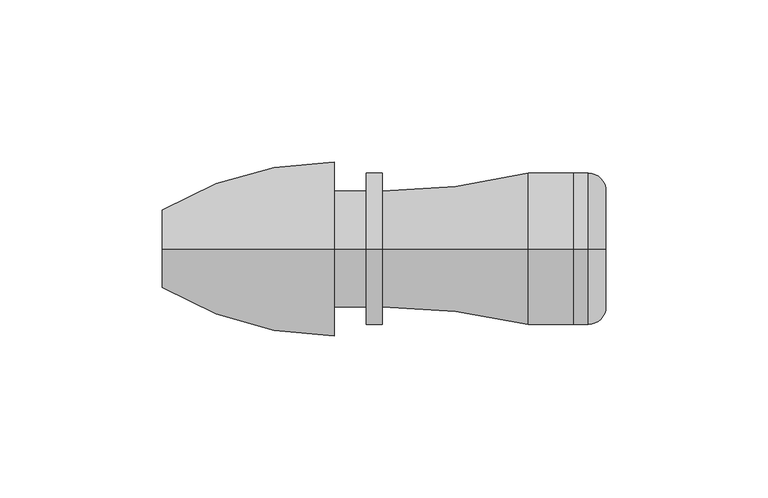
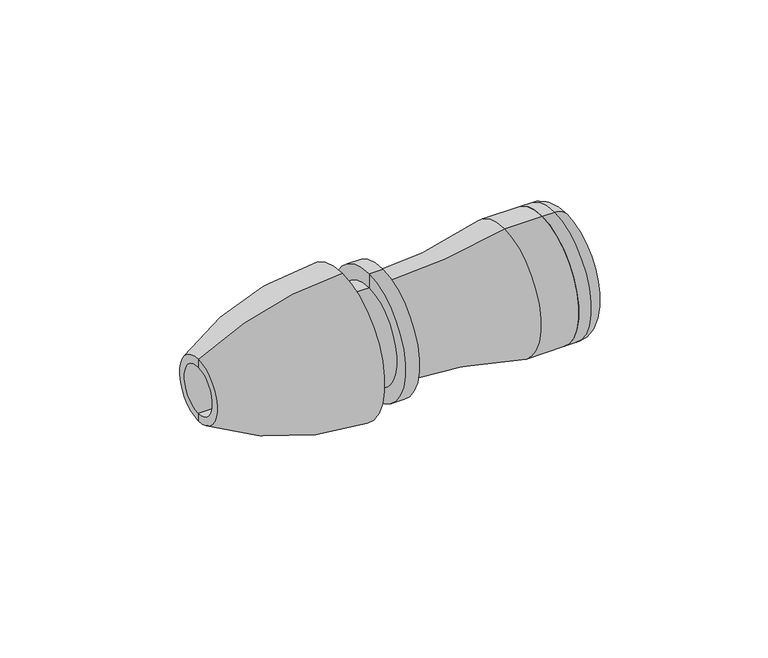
"""IFC4 building model written with IfcOpenShell, lengths in millimetres: pipe fitting geometry, Plumbing_Pipe-Fittings_Plasson_Universal-Adaptor_10017 : Plumbing_Pipe-Fittings_Plasson_Universal-Adaptor_10017."""

from ifc_helpers import new_model, si_unit, point, frame, origin, place, context, project, spatial, polyline, circle_curve, ellipse_curve, trimmed, source, transform, mapped, element, save
from ifc_brep_helpers import plane_surface, cylinder_surface, revolved_surface, advanced_brep


def pipe_fitting_002d9347(model_context):
    return source(origin(), model_context, "Body", "AdvancedBrep", [
        advanced_brep(
        [(0.8817136, 0.0, -9.0), (0.8817136, 0.0, 9.0), (-67.1182864, 0.0, 9.0), (-67.1182864, 0.0, -9.0), (0.8817136, 0.0, -23.5), (0.8817136, 0.0, 23.5), (-4.1182864, 0.0, -23.5), (-4.1182864, 0.0, 23.5), (-4.1182864, 0.0, -18.0), (-4.1182864, 0.0, 18.0), (-13.9516197, 0.0, -18.0), (-13.9516197, 0.0, 18.0), (-13.9516197, 0.0, -27.0), (-13.9516197, 0.0, 27.0), (-67.1182864, 0.0, 12.0), (-67.1182864, 0.0, -12.0)],
        [
            (0, 1, circle_curve(frame((0.8817136, 0.0, 0.0), z_axis=(1.0, 0.0, 0.0), x_axis=(0.0, 0.0, 1.0)), 9.0)),
            (1, 2),
            (2, 3, circle_curve(frame((-67.1182864, 0.0, 0.0), z_axis=(-1.0, 0.0, 0.0), x_axis=(0.0, 0.0, 1.0)), 9.0)),
            (3, 0),
            (1, 0, circle_curve(frame((0.8817136, 0.0, 0.0), z_axis=(1.0, 0.0, 0.0), x_axis=(0.0, 0.0, 1.0)), 9.0)),
            (3, 2, circle_curve(frame((-67.1182864, 0.0, 0.0), z_axis=(-1.0, 0.0, 0.0), x_axis=(0.0, 0.0, 1.0)), 9.0)),
            (4, 5, circle_curve(frame((0.8817136, 0.0, 0.0), z_axis=(1.0, 0.0, 0.0), x_axis=(0.0, 0.0, 1.0)), 23.5)),
            (5, 1),
            (0, 4),
            (5, 4, circle_curve(frame((0.8817136, 0.0, 0.0), z_axis=(1.0, 0.0, 0.0), x_axis=(0.0, 0.0, 1.0)), 23.5)),
            (6, 7, circle_curve(frame((-4.1182864, 0.0, 0.0), z_axis=(1.0, 0.0, 0.0), x_axis=(0.0, 0.0, 1.0)), 23.5)),
            (7, 5),
            (4, 6),
            (7, 6, circle_curve(frame((-4.1182864, 0.0, 0.0), z_axis=(1.0, 0.0, 0.0), x_axis=(0.0, 0.0, 1.0)), 23.5)),
            (8, 9, circle_curve(frame((-4.1182864, 0.0, 0.0), z_axis=(1.0, 0.0, 0.0), x_axis=(0.0, 0.0, 1.0)), 18.0)),
            (9, 7),
            (6, 8),
            (9, 8, circle_curve(frame((-4.1182864, 0.0, 0.0), z_axis=(1.0, 0.0, 0.0), x_axis=(0.0, 0.0, 1.0)), 18.0)),
            (10, 11, circle_curve(frame((-13.9516197, 0.0, 0.0), z_axis=(1.0, 0.0, 0.0), x_axis=(0.0, 0.0, 1.0)), 18.0)),
            (11, 9),
            (8, 10),
            (11, 10, circle_curve(frame((-13.9516197, 0.0, 0.0), z_axis=(1.0, 0.0, 0.0), x_axis=(0.0, 0.0, 1.0)), 18.0)),
            (12, 13, circle_curve(frame((-13.9516197, 0.0, 0.0), z_axis=(1.0, 0.0, 0.0), x_axis=(0.0, 0.0, 1.0)), 27.0)),
            (13, 11),
            (10, 12),
            (13, 12, circle_curve(frame((-13.9516197, 0.0, 0.0), z_axis=(1.0, 0.0, 0.0), x_axis=(0.0, 0.0, 1.0)), 27.0)),
            (2, 14),
            (14, 15, circle_curve(frame((-67.1182864, 0.0, 0.0), z_axis=(-1.0, 0.0, 0.0), x_axis=(0.0, 0.0, 1.0)), 12.0)),
            (15, 3),
            (15, 14, circle_curve(frame((-67.1182864, 0.0, 0.0), z_axis=(-1.0, 0.0, 0.0), x_axis=(0.0, 0.0, 1.0)), 12.0)),
            (14, 13, circle_curve(frame((-13.9516197, 0.0, -74.7231481), z_axis=(0.0, 1.0, 0.0), x_axis=(1.0, 0.0, 0.0)), 101.7231481)),
            (12, 15, circle_curve(frame((-13.9516197, 0.0, 74.7231481), z_axis=(0.0, 1.0, 0.0), x_axis=(1.0, 0.0, 0.0)), 101.7231481)),
        ],
        [
            revolved_surface(polyline([(-67.1182864, 0.0, 9.0), (0.8817136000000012, 0.0, 9.0)]), (-29.1182864, 0.0, 0.0), (-1.0, 0.0, 0.0)),
            plane_surface(frame((0.8817136, 0.0, 0.0), z_axis=(1.0, 0.0, 0.0), x_axis=(0.0, 0.0, 1.0))),
            cylinder_surface(frame((-29.1182864, 0.0, 0.0), z_axis=(-1.0, 0.0, 0.0), x_axis=(0.0, 0.0, 1.0)), 23.5),
            plane_surface(frame((-4.1182864, 0.0, 0.0), z_axis=(-1.0, 0.0, 0.0), x_axis=(0.0, 0.0, 1.0))),
            cylinder_surface(frame((-29.1182864, 0.0, 0.0), z_axis=(-1.0, 0.0, 0.0), x_axis=(0.0, 0.0, 1.0)), 18.0),
            plane_surface(frame((-13.9516197, 0.0, 0.0), z_axis=(1.0, 0.0, 0.0), x_axis=(0.0, 0.0, 1.0))),
            plane_surface(frame((-67.1182864, 0.0, 0.0), z_axis=(-1.0, 0.0, 0.0), x_axis=(0.0, 0.0, 1.0))),
            revolved_surface(trimmed(ellipse_curve(frame((-13.9516197, 0.0, -74.7231481), z_axis=(0.0, -1.0, 0.0), x_axis=(1.0, 0.0, 0.0)), 101.7231481, 101.7231481), [point((-13.9516197, 0.0, 27.0))], [point((-67.1182864, 0.0, 12.0))], True, "CARTESIAN"), (-29.1182864, 0.0, 0.0), (-1.0, 0.0, 0.0)),
        ],
        [
            (0, [[1, 2, 3, 4]]),
            (0, [[5, -4, 6, -2]]),
            (1, [[7, 8, -1, 9]]),
            (1, [[10, -9, -5, -8]]),
            (2, [[11, 12, -7, 13]]),
            (2, [[14, -13, -10, -12]]),
            (3, [[15, 16, -11, 17]]),
            (3, [[18, -17, -14, -16]]),
            (4, [[19, 20, -15, 21]]),
            (4, [[22, -21, -18, -20]]),
            (5, [[23, 24, -19, 25]]),
            (5, [[26, -25, -22, -24]]),
            (6, [[-3, 27, 28, 29]]),
            (6, [[-6, -29, 30, -27]]),
            (7, [[-28, 31, -23, 32]]),
            (7, [[-30, -32, -26, -31]]),
        ],
    ),
        advanced_brep(
        [(69.8817136, 0.0, -12.5), (69.8817136, 0.0, 12.5), (59.8817136, 0.0, 12.5), (59.8817136, 0.0, -12.5), (69.8817136, 0.0, -18.0), (69.8817136, 0.0, 18.0), (64.3817136, 0.0, -23.5), (64.3817136, 0.0, 23.5), (59.8817136, 0.0, -23.5), (59.8817136, 0.0, 23.5)],
        [
            (0, 1, circle_curve(frame((69.8817136, 0.0, 0.0), z_axis=(1.0, 0.0, 0.0), x_axis=(0.0, 0.0, 1.0)), 12.5)),
            (1, 2),
            (2, 3, circle_curve(frame((59.8817136, 0.0, 0.0), z_axis=(-1.0, 0.0, 0.0), x_axis=(0.0, 0.0, 1.0)), 12.5)),
            (3, 0),
            (1, 0, circle_curve(frame((69.8817136, 0.0, 0.0), z_axis=(1.0, 0.0, 0.0), x_axis=(0.0, 0.0, 1.0)), 12.5)),
            (3, 2, circle_curve(frame((59.8817136, 0.0, 0.0), z_axis=(-1.0, 0.0, 0.0), x_axis=(0.0, 0.0, 1.0)), 12.5)),
            (4, 5, circle_curve(frame((69.8817136, 0.0, 0.0), z_axis=(1.0, 0.0, 0.0), x_axis=(0.0, 0.0, 1.0)), 18.0)),
            (5, 1),
            (0, 4),
            (5, 4, circle_curve(frame((69.8817136, 0.0, 0.0), z_axis=(1.0, 0.0, 0.0), x_axis=(0.0, 0.0, 1.0)), 18.0)),
            (6, 7, circle_curve(frame((64.3817136, 0.0, 0.0), z_axis=(1.0, 0.0, 0.0), x_axis=(0.0, 0.0, 1.0)), 23.5)),
            (7, 5, circle_curve(frame((64.3817136, 0.0, 18.0), z_axis=(0.0, 1.0, 0.0), x_axis=(1.0, 0.0, 0.0)), 5.5)),
            (4, 6, circle_curve(frame((64.3817136, 0.0, -18.0), z_axis=(0.0, 1.0, 0.0), x_axis=(1.0, 0.0, 0.0)), 5.5)),
            (7, 6, circle_curve(frame((64.3817136, 0.0, 0.0), z_axis=(1.0, 0.0, 0.0), x_axis=(0.0, 0.0, 1.0)), 23.5)),
            (8, 9, circle_curve(frame((59.8817136, 0.0, 0.0), z_axis=(1.0, 0.0, 0.0), x_axis=(0.0, 0.0, 1.0)), 23.5)),
            (9, 7),
            (6, 8),
            (9, 8, circle_curve(frame((59.8817136, 0.0, 0.0), z_axis=(1.0, 0.0, 0.0), x_axis=(0.0, 0.0, 1.0)), 23.5)),
            (2, 9),
            (8, 3),
        ],
        [
            revolved_surface(polyline([(59.8817136, 0.0, 12.5), (69.8817136, 0.0, 12.5)]), (50.3288773, 0.0, 0.0), (-1.0, 0.0, 0.0)),
            plane_surface(frame((69.8817136, 0.0, 0.0), z_axis=(1.0, 0.0, 0.0), x_axis=(0.0, 0.0, 1.0))),
            revolved_surface(trimmed(ellipse_curve(frame((64.3817136, 0.0, 18.0), z_axis=(0.0, -1.0, 0.0), x_axis=(1.0, 0.0, 0.0)), 5.5, 5.5), [point((69.8817136, 0.0, 18.0))], [point((64.3817136, 0.0, 23.5))], True, "CARTESIAN"), (50.3288773, 0.0, 0.0), (-1.0, 0.0, 0.0)),
            cylinder_surface(frame((50.3288773, 0.0, 0.0), z_axis=(-1.0, 0.0, 0.0), x_axis=(0.0, 0.0, 1.0)), 23.5),
            plane_surface(frame((59.8817136, 0.0, 0.0), z_axis=(-1.0, 0.0, 0.0), x_axis=(0.0, 0.0, 1.0))),
        ],
        [
            (0, [[1, 2, 3, 4]]),
            (0, [[5, -4, 6, -2]]),
            (1, [[7, 8, -1, 9]]),
            (1, [[10, -9, -5, -8]]),
            (2, [[11, 12, -7, 13]]),
            (2, [[14, -13, -10, -12]]),
            (3, [[15, 16, -11, 17]]),
            (3, [[18, -17, -14, -16]]),
            (4, [[-3, 19, -15, 20]]),
            (4, [[-6, -20, -18, -19]]),
        ],
    ),
        advanced_brep(
        [(45.8817136, 0.0, -23.5), (45.8817136, 0.0, 23.5), (59.8817136, 0.0, 23.5), (59.8817136, 0.0, -23.5), (0.8817136, 0.0, -18.0), (0.8817136, 0.0, 18.0), (21.8817136, 0.0, -12.5), (21.8817136, 0.0, 12.5), (21.8817136, 0.0, 0.0), (59.8817136, 0.0, -12.5), (59.8817136, 0.0, 12.5), (0.8817136, 0.0, 0.0)],
        [
            (0, 1, circle_curve(frame((45.8817136, 0.0, 0.0), z_axis=(1.0, 0.0, 0.0), x_axis=(0.0, 0.0, 1.0)), 23.5)),
            (1, 2),
            (2, 3, circle_curve(frame((59.8817136, 0.0, 0.0), z_axis=(-1.0, 0.0, 0.0), x_axis=(0.0, 0.0, 1.0)), 23.5)),
            (3, 0),
            (1, 0, circle_curve(frame((45.8817136, 0.0, 0.0), z_axis=(1.0, 0.0, 0.0), x_axis=(0.0, 0.0, 1.0)), 23.5)),
            (3, 2, circle_curve(frame((59.8817136, 0.0, 0.0), z_axis=(-1.0, 0.0, 0.0), x_axis=(0.0, 0.0, 1.0)), 23.5)),
            (4, 5, circle_curve(frame((0.8817136, 0.0, 0.0), z_axis=(1.0, 0.0, 0.0), x_axis=(0.0, 0.0, 1.0)), 18.0)),
            (5, 1, circle_curve(frame((0.8817136, 0.0, 204.8409091), z_axis=(0.0, -1.0, 0.0), x_axis=(1.0, 0.0, 0.0)), 186.8409091)),
            (0, 4, circle_curve(frame((0.8817136, 0.0, -204.8409091), z_axis=(0.0, -1.0, 0.0), x_axis=(1.0, 0.0, 0.0)), 186.8409091)),
            (5, 4, circle_curve(frame((0.8817136, 0.0, 0.0), z_axis=(1.0, 0.0, 0.0), x_axis=(0.0, 0.0, 1.0)), 18.0)),
            (6, 7, circle_curve(frame((21.8817136, 0.0, 0.0), z_axis=(1.0, 0.0, 0.0), x_axis=(0.0, 0.0, 1.0)), 12.5)),
            (7, 8),
            (8, 6),
            (7, 6, circle_curve(frame((21.8817136, 0.0, 0.0), z_axis=(1.0, 0.0, 0.0), x_axis=(0.0, 0.0, 1.0)), 12.5)),
            (9, 10, circle_curve(frame((59.8817136, 0.0, 0.0), z_axis=(1.0, 0.0, 0.0), x_axis=(0.0, 0.0, 1.0)), 12.5)),
            (10, 7),
            (6, 9),
            (10, 9, circle_curve(frame((59.8817136, 0.0, 0.0), z_axis=(1.0, 0.0, 0.0), x_axis=(0.0, 0.0, 1.0)), 12.5)),
            (2, 10),
            (9, 3),
            (11, 5),
            (4, 11),
        ],
        [
            cylinder_surface(frame((-39.1182864, 0.0, 0.0), z_axis=(-1.0, 0.0, 0.0), x_axis=(0.0, 0.0, 1.0)), 23.5),
            revolved_surface(trimmed(ellipse_curve(frame((0.8817136, 0.0, 204.8409091), z_axis=(0.0, 1.0, 0.0), x_axis=(1.0, 0.0, 0.0)), 186.8409091, 186.8409091), [point((45.8817136, 0.0, 23.5))], [point((0.8817136, 0.0, 18.0))], True, "CARTESIAN"), (-39.1182864, 0.0, 0.0), (-1.0, 0.0, 0.0)),
            plane_surface(frame((21.8817136, 0.0, 0.0), z_axis=(1.0, 0.0, 0.0), x_axis=(0.0, 0.0, 1.0))),
            revolved_surface(polyline([(21.881713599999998, 0.0, 12.5), (59.8817136, 0.0, 12.5)]), (-39.1182864, 0.0, 0.0), (-1.0, 0.0, 0.0)),
            plane_surface(frame((59.8817136, 0.0, 0.0), z_axis=(1.0, 0.0, 0.0), x_axis=(0.0, 0.0, 1.0))),
            plane_surface(frame((0.8817136, 0.0, 0.0), z_axis=(-1.0, 0.0, 0.0), x_axis=(0.0, 0.0, 1.0))),
        ],
        [
            (0, [[1, 2, 3, 4]]),
            (0, [[5, -4, 6, -2]]),
            (1, [[7, 8, -1, 9]]),
            (1, [[10, -9, -5, -8]]),
            (2, [[11, 12, 13]]),
            (2, [[14, -13, -12]]),
            (3, [[15, 16, -11, 17]]),
            (3, [[18, -17, -14, -16]]),
            (4, [[-3, 19, -15, 20]]),
            (4, [[-6, -20, -18, -19]]),
            (5, [[21, -7, 22]]),
            (5, [[-22, -10, -21]]),
        ],
    ),
    ])


if __name__ == "__main__":
    model = new_model("IFC4")
    model_context = context("Model", 3, world=origin())
    ifc_project = project(units=[si_unit("LENGTHUNIT", "METRE", prefix="MILLI")], contexts=[model_context])
    site = spatial("IfcSite", under=ifc_project)
    building = spatial("IfcBuilding", under=site)
    placement = place(None, origin())
    pipe_fitting_shape = pipe_fitting_002d9347(model_context)
    element("IfcPipeFitting", 1, ObjectType="Plumbing_Pipe-Fittings_Plasson_Universal-Adaptor_10017 : Plumbing_Pipe-Fittings_Plasson_Universal-Adaptor_10017", at=placement, inside=building, context=model_context, shape_type="MappedRepresentation", body=[
        mapped(pipe_fitting_shape, transform((0.0, 0.0, 0.0), x_axis=(1.0, 0.0, 0.0), y_axis=(0.0, 1.0, 0.0), z_axis=(0.0, 0.0, 1.0))),
    ])
    save(model, "model.ifc")
